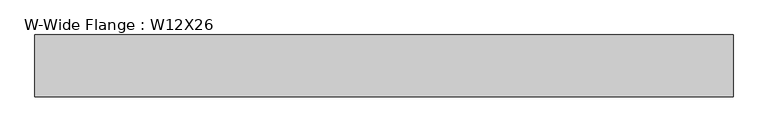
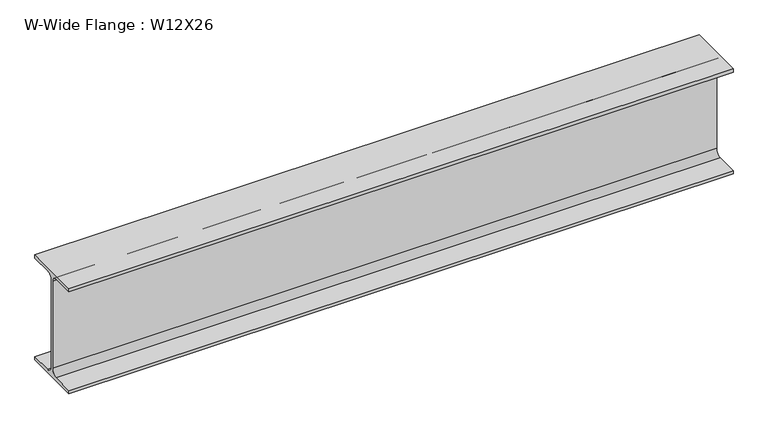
"""IFC4 building model written with IfcOpenShell, lengths in millimetres: beam geometry, W-Wide Flange : W12X26."""

from ifc_helpers import new_model, si_unit, point, frame, frame_2d, origin, place, context, project, spatial, polyline, circle_curve, trimmed, segment, composite_curve, outline, extrude, source, transform, mapped, element, save


def w_wide_flange_w12x26_3993bfbb(model_context):
    return source(origin(), model_context, "Body", "SweptSolid", [
        extrude(outline(composite_curve([segment(polyline([(-82.4011719, -145.5539063), (-20.2902344, -145.5539063)]), True, "CONTINUOUS"), segment(trimmed(circle_curve(frame_2d((-20.2902344, -128.190625)), 17.3632812), [point((-20.2902344, -145.5539063))], [point((-2.9269531, -128.190625))], True, "CARTESIAN"), True, "CONTINUOUS"), segment(polyline([(-2.9269531, -128.190625), (-2.9269531, 128.190625)]), True, "CONTINUOUS"), segment(trimmed(circle_curve(frame_2d((-20.2902344, 128.190625)), 17.3632812), [point((-2.9269531, 128.190625))], [point((-20.2902344, 145.5539062))], True, "CARTESIAN"), True, "CONTINUOUS"), segment(polyline([(-20.2902344, 145.5539062), (-82.4011719, 145.5539062), (-82.4011719, 155.178125), (82.4011719, 155.178125), (82.4011719, 145.5539062), (20.2902344, 145.5539062)]), True, "CONTINUOUS"), segment(trimmed(circle_curve(frame_2d((20.2902344, 128.190625)), 17.3632812), [point((20.2902344, 145.5539062))], [point((2.9269531, 128.190625))], True, "CARTESIAN"), True, "CONTINUOUS"), segment(polyline([(2.9269531, 128.190625), (2.9269531, -128.190625)]), True, "CONTINUOUS"), segment(trimmed(circle_curve(frame_2d((20.2902344, -128.190625)), 17.3632812), [point((2.9269531, -128.190625))], [point((20.2902344, -145.5539063))], True, "CARTESIAN"), True, "CONTINUOUS"), segment(polyline([(20.2902344, -145.5539063), (82.4011719, -145.5539063), (82.4011719, -155.178125), (-82.4011719, -155.178125), (-82.4011719, -145.5539063)]), True, "CONTINUOUS")], self_intersect=False)), frame((-877.2009341, 0.0, 0.0), z_axis=(1.0, 0.0, 0.0), x_axis=(0.0, 1.0, 0.0)), (0.0, 0.0, 1.0), 1855.1009341),
    ])


if __name__ == "__main__":
    model = new_model("IFC4")
    model_context = context("Model", 3, world=origin())
    ifc_project = project(units=[si_unit("LENGTHUNIT", "METRE", prefix="MILLI")], contexts=[model_context])
    site = spatial("IfcSite", under=ifc_project)
    building = spatial("IfcBuilding", under=site)
    placement = place(None, origin())
    w_wide_flange_w12x26_shape = w_wide_flange_w12x26_3993bfbb(model_context)
    element("IfcBeam", 1, ObjectType="W-Wide Flange : W12X26", at=placement, inside=building, context=model_context, shape_type="MappedRepresentation", body=[
        mapped(w_wide_flange_w12x26_shape, transform((0.0, 0.0, 0.0), x_axis=(1.0, 0.0, 0.0), y_axis=(0.0, 1.0, 0.0), z_axis=(0.0, 0.0, 1.0))),
    ])
    save(model, "model.ifc")
